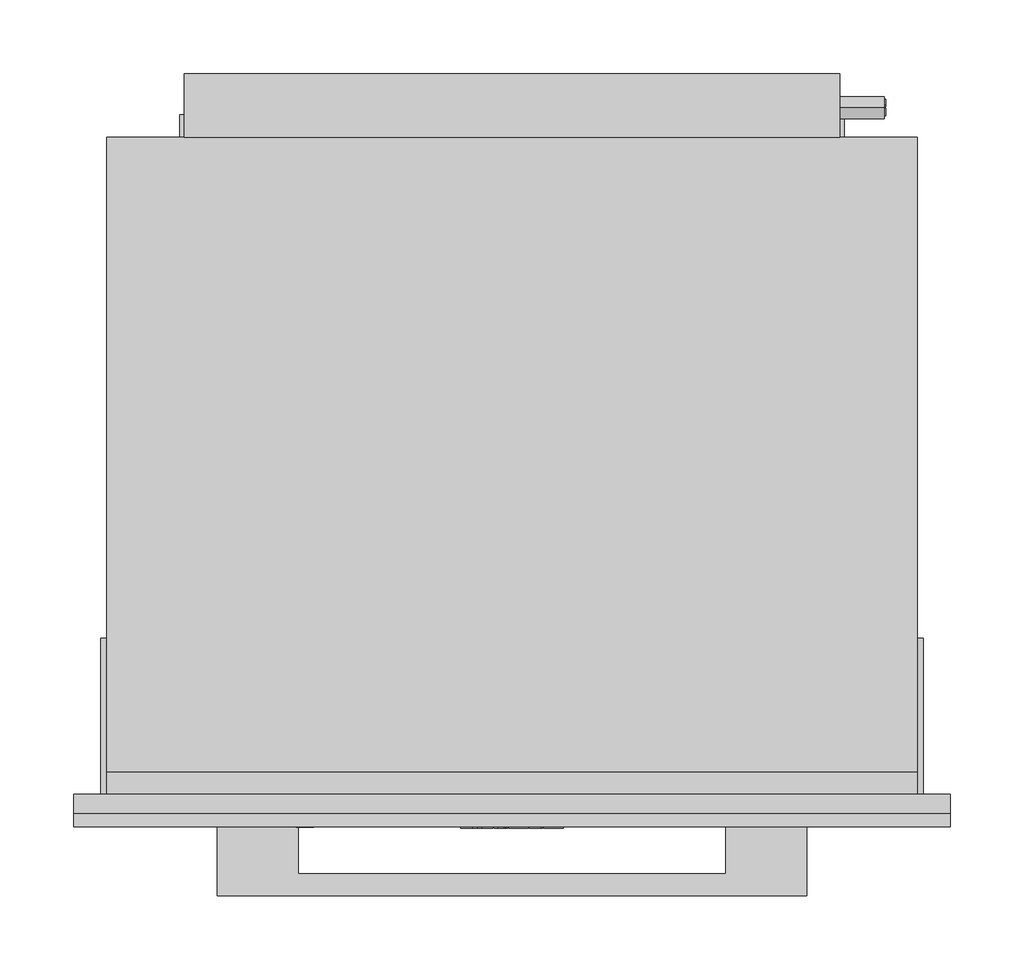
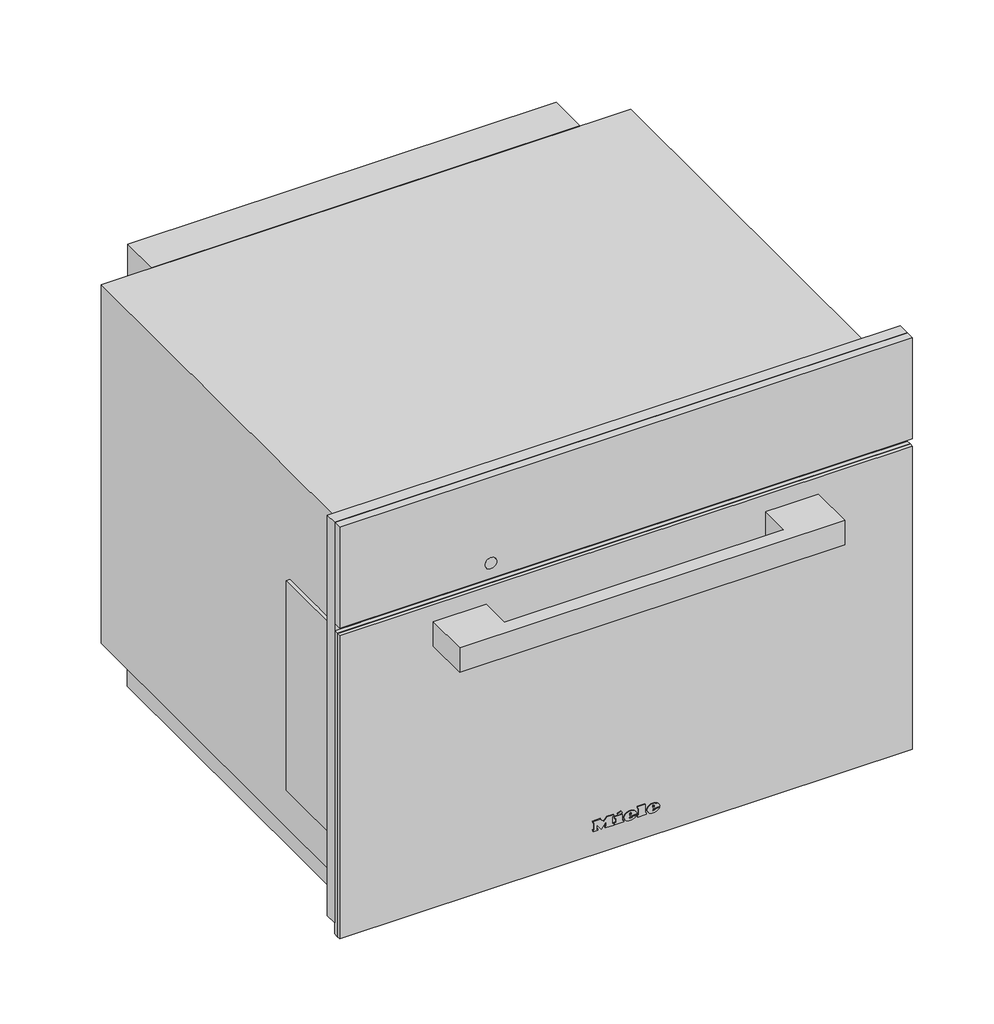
# Not in any storey: 1 proxy.
"""IFC4 building model written with IfcOpenShell, lengths in millimetres."""

import ifcopenshell
import ifcopenshell.guid

model = None  # the IFC model being written
_history = None  # IfcOwnerHistory: only IFC2X3 demands one
_inside = {}  # id of a spatial element -> (the spatial element, [elements in it])
_under = {}  # id of a project, library or spatial element -> (it, [spatial elements below it])
_declared = {}  # id of a project -> (the project, [libraries it declares])
_typed = {}  # id of a type object -> (the type object, [elements of that type])
_made_of = {}  # id of a material, layer set ... -> (it, [elements and type objects made of it])


def new_model(schema):
    """Start an empty IFC model of exactly this schema.

    Asked for "IFC4X3", IfcOpenShell would pick the latest addendum, in which some entities
    have other attributes; the version numbers below select the first issue.
    IFC2X3 requires an IfcOwnerHistory on every rooted entity: one is made here for all.
    """
    global model, _history
    if schema == "IFC4X3":
        model = ifcopenshell.file(schema_version=(4, 3, 0, 0))
    else:
        model = ifcopenshell.file(schema=schema)
    _inside.clear()
    _under.clear()
    _declared.clear()
    _typed.clear()
    _made_of.clear()
    _history = None
    if model.schema == "IFC2X3":
        org = make("IfcOrganization", Name="unknown")
        user = make(
            "IfcPersonAndOrganization",
            ThePerson=make("IfcPerson", FamilyName="unknown"),
            TheOrganization=org,
        )
        app = make(
            "IfcApplication",
            ApplicationDeveloper=org,
            Version="unknown",
            ApplicationFullName="unknown",
            ApplicationIdentifier="unknown",
        )
        _history = make(
            "IfcOwnerHistory",
            OwningUser=user,
            OwningApplication=app,
            ChangeAction="ADDED",
            CreationDate=0,
        )
    return model


def make(cls, **values):
    """One entity of the class cls with the attributes given. An attribute that is None is left unset."""
    return model.create_entity(
        cls, **{name: value for name, value in values.items() if value is not None}
    )


def rooted(cls, **values):
    """An entity with a GlobalId (a new one), such as an element, a storey or a relation."""
    return make(cls, GlobalId=ifcopenshell.guid.new(), OwnerHistory=_history, **values)


def si_unit(unit_type, name, prefix=None):
    """IfcSIUnit, for example si_unit("LENGTHUNIT", "METRE", prefix="MILLI")."""
    return make("IfcSIUnit", UnitType=unit_type, Prefix=prefix, Name=name)


def assignment(units):
    """IfcUnitAssignment: the units of a project."""
    return None if units is None else make("IfcUnitAssignment", Units=units)


def point(xyz):
    """IfcCartesianPoint."""
    return None if xyz is None else make("IfcCartesianPoint", Coordinates=xyz)


def direction(xyz):
    """IfcDirection."""
    return None if xyz is None else make("IfcDirection", DirectionRatios=xyz)


def frame(location, z_axis=None, x_axis=None):
    """IfcAxis2Placement3D, a coordinate frame: its origin and axes. An axis left out is left unset."""
    return make(
        "IfcAxis2Placement3D",
        Location=point(location),
        Axis=direction(z_axis),
        RefDirection=direction(x_axis),
    )


def frame_2d(location, x_axis=None):
    """IfcAxis2Placement2D, a coordinate frame in the plane: its origin and x axis."""
    return make(
        "IfcAxis2Placement2D", Location=point(location), RefDirection=direction(x_axis)
    )


def origin():
    """The frame at (0, 0, 0) with its axes left unset."""
    return frame((0.0, 0.0, 0.0))


def origin_with_axes():
    """The frame at (0, 0, 0) with the z axis (0, 0, 1) and the x axis (1, 0, 0) written out."""
    return frame((0.0, 0.0, 0.0), z_axis=(0.0, 0.0, 1.0), x_axis=(1.0, 0.0, 0.0))


def place(relative_to, where):
    """IfcLocalPlacement: puts the frame where relative to a parent placement (None: the world)."""
    return make(
        "IfcLocalPlacement", PlacementRelTo=relative_to, RelativePlacement=where
    )


def context(
    kind, dimensions, precision=None, world=None, true_north=None, identifier=None
):
    """IfcGeometricRepresentationContext, for example the 3D "Model" context."""
    return make(
        "IfcGeometricRepresentationContext",
        ContextIdentifier=identifier,
        ContextType=kind,
        CoordinateSpaceDimension=dimensions,
        Precision=precision,
        WorldCoordinateSystem=world,
        TrueNorth=true_north,
    )


def project(units=None, contexts=None):
    """IfcProject with its units and contexts."""
    return rooted(
        "IfcProject",
        Name="project",
        RepresentationContexts=contexts,
        UnitsInContext=assignment(units),
    )


def spatial(cls, under=None, at=None, **own):
    """A site, building, storey or space (cls), placed at a placement, below another one or the project."""
    s = rooted(cls, ObjectPlacement=at, **own)
    if under is not None:
        _under.setdefault(under.id(), (under, []))[1].append(s)
    return s


def polyline(points):
    """IfcPolyline through the points."""
    return make("IfcPolyline", Points=[point(p) for p in points])


def circle_curve(where, radius):
    """IfcCircle in the frame where."""
    return make("IfcCircle", Position=where, Radius=radius)


def ellipse_curve(where, semi_axis1, semi_axis2):
    """IfcEllipse in the frame where."""
    return make(
        "IfcEllipse", Position=where, SemiAxis1=semi_axis1, SemiAxis2=semi_axis2
    )


def trimmed(basis, trim1, trim2, sense, master):
    """IfcTrimmedCurve: the piece of a basis curve between two trims."""
    return make(
        "IfcTrimmedCurve",
        BasisCurve=basis,
        Trim1=trim1,
        Trim2=trim2,
        SenseAgreement=sense,
        MasterRepresentation=master,
    )


def segment(curve, same_sense, transition):
    """IfcCompositeCurveSegment."""
    return make(
        "IfcCompositeCurveSegment",
        Transition=transition,
        SameSense=same_sense,
        ParentCurve=curve,
    )


def composite_curve(segments, self_intersect=None):
    """IfcCompositeCurve: segments joined end to end."""
    return make("IfcCompositeCurve", Segments=segments, SelfIntersect=self_intersect)


def outline(outer, holes=None, kind="AREA"):
    """IfcArbitraryClosedProfileDef: a profile drawn as a closed curve; with holes, ...WithVoids."""
    if holes is None:
        return make("IfcArbitraryClosedProfileDef", ProfileType=kind, OuterCurve=outer)
    return make(
        "IfcArbitraryProfileDefWithVoids",
        ProfileType=kind,
        OuterCurve=outer,
        InnerCurves=holes,
    )


def extrude(swept, where, along, depth):
    """IfcExtrudedAreaSolid: the profile swept, set in the frame where, extruded along a direction by depth."""
    return make(
        "IfcExtrudedAreaSolid",
        SweptArea=swept,
        Position=where,
        ExtrudedDirection=direction(along),
        Depth=depth,
    )


def faces_of(points, faces, orient=None, outer=None):
    """IfcFace entities. A face is a list of loops; a loop is a list of indices into points, from 0.

    orient and outer hold one flag for each loop. By default every Orientation is true, the
    first loop of a face is its IfcFaceOuterBound and the others are IfcFaceBound.
    """
    made = []
    for i, loops in enumerate(faces):
        bounds = []
        for j, loop in enumerate(loops):
            is_outer = j == 0 if outer is None else outer[i][j]
            bounds.append(
                make(
                    "IfcFaceOuterBound" if is_outer else "IfcFaceBound",
                    Bound=make("IfcPolyLoop", Polygon=[points[k] for k in loop]),
                    Orientation=True if orient is None else orient[i][j],
                )
            )
        made.append(make("IfcFace", Bounds=bounds))
    return made


def faceted_brep(points, faces, orient=None, outer=None, voids=None):
    """IfcFacetedBrep: a solid bounded by flat faces; with voids (closed shells), ...WithVoids."""
    shared = [point(p) for p in points]
    hull = make("IfcClosedShell", CfsFaces=faces_of(shared, faces, orient, outer))
    if voids is None:
        return make("IfcFacetedBrep", Outer=hull)
    return make(
        "IfcFacetedBrepWithVoids",
        Outer=hull,
        Voids=[
            make(cls, CfsFaces=faces_of(shared, fs, o, b)) for cls, fs, o, b in voids
        ],
    )


def shape(context_of_items, identifier, shape_type, items):
    """IfcShapeRepresentation: the items that make up one representation, for example the "Body"."""
    return make(
        "IfcShapeRepresentation",
        ContextOfItems=context_of_items,
        RepresentationIdentifier=identifier,
        RepresentationType=shape_type,
        Items=items,
    )


def source(mapping_origin, context_of_items, identifier, shape_type, items):
    """IfcRepresentationMap: a shape defined once, which mapped items show again and again."""
    return make(
        "IfcRepresentationMap",
        MappingOrigin=mapping_origin,
        MappedRepresentation=shape(context_of_items, identifier, shape_type, items),
    )


def transform(
    local_origin,
    x_axis=None,
    y_axis=None,
    z_axis=None,
    scale=None,
    scale2=None,
    scale3=None,
    uniform=True,
):
    """IfcCartesianTransformationOperator3D, or its non-uniform kind. x_axis, y_axis, z_axis: its Axis1, 2, 3."""
    if uniform:
        return make(
            "IfcCartesianTransformationOperator3D",
            Axis1=direction(x_axis),
            Axis2=direction(y_axis),
            LocalOrigin=point(local_origin),
            Scale=scale,
            Axis3=direction(z_axis),
        )
    return make(
        "IfcCartesianTransformationOperator3DnonUniform",
        Axis1=direction(x_axis),
        Axis2=direction(y_axis),
        LocalOrigin=point(local_origin),
        Scale=scale,
        Axis3=direction(z_axis),
        Scale2=scale2,
        Scale3=scale3,
    )


def mapped(mapping_source, mapping_target):
    """IfcMappedItem: shows the shape of a source again, moved by a transform."""
    return make(
        "IfcMappedItem", MappingSource=mapping_source, MappingTarget=mapping_target
    )


def made_of(thing, what):
    """Note that an element or type object is made of a material, layer set ...; save() writes the relation."""
    if what is not None:
        _made_of.setdefault(what.id(), (what, []))[1].append(thing)
    return thing


def element(
    cls,
    number,
    at=None,
    inside=None,
    cuts=None,
    type_object=None,
    material=None,
    context=None,
    identifier="Body",
    shape_type=None,
    held_by="IfcProductDefinitionShape",
    body=None,
    shapes=None,
    **own,
):
    """One element of the class cls, such as IfcWall. Its Tag is "e" and its number.

    at: its placement. inside: the storey or other place that contains it. cuts: it is an
    opening in that element (IfcRelVoidsElement). A single representation is given by context,
    identifier, shape_type and body (its items); several are given by shapes. held_by: the class
    of the entity that holds the representations. save() writes the other relations.
    """
    e = rooted(cls, Tag="e%d" % number, ObjectPlacement=at, **own)
    if body is not None:
        shapes = [shape(context, identifier, shape_type, body)]
    if shapes is not None:
        e.Representation = make(held_by, Representations=shapes)
    if inside is not None:
        _inside.setdefault(inside.id(), (inside, []))[1].append(e)
    if cuts is not None:
        rooted(
            "IfcRelVoidsElement", RelatingBuildingElement=cuts, RelatedOpeningElement=e
        )
    if type_object is not None:
        _typed.setdefault(type_object.id(), (type_object, []))[1].append(e)
    return made_of(e, material)


def aggregate(whole, parts):
    """IfcRelAggregates: a whole, such as a stair, and the parts it consists of."""
    return rooted("IfcRelAggregates", RelatingObject=whole, RelatedObjects=parts)


def save(model, path):
    """Write the relations noted so far, then the file.

    IfcRelAggregates (storeys below a building ...), IfcRelContainedInSpatialStructure (elements
    in a storey), IfcRelDefinesByType, IfcRelAssociatesMaterial and IfcRelDeclares: one each for
    every whole, place, type object, material and project.
    """
    for whole, parts in _under.values():
        aggregate(whole, parts)
    for where, things in _inside.values():
        rooted(
            "IfcRelContainedInSpatialStructure",
            RelatedElements=things,
            RelatingStructure=where,
        )
    for kind, things in _typed.values():
        rooted("IfcRelDefinesByType", RelatedObjects=things, RelatingType=kind)
    for what, things in _made_of.values():
        rooted("IfcRelAssociatesMaterial", RelatedObjects=things, RelatingMaterial=what)
    for by, libraries in _declared.values():
        rooted("IfcRelDeclares", RelatingContext=by, RelatedDefinitions=libraries)
    model.write(path)


def plane_surface(at):
    """IfcPlane: the flat surface through the origin of the frame at, square to its z axis."""
    return make("IfcPlane", Position=at)


def cylinder_surface(at, radius):
    """IfcCylindricalSurface: all points at the distance radius from the z axis of the frame at."""
    return make("IfcCylindricalSurface", Position=at, Radius=radius)


def revolved_surface(curve, axis_point, axis_direction):
    """IfcSurfaceOfRevolution: the curve turned about the line through axis_point along axis_direction."""
    return make(
        "IfcSurfaceOfRevolution",
        SweptCurve=make("IfcArbitraryOpenProfileDef", ProfileType="CURVE", Curve=curve),
        AxisPosition=make("IfcAxis1Placement", Location=point(axis_point), Axis=direction(axis_direction)),
    )


def extruded_surface(curve, direction_of_extrusion, depth):
    """IfcSurfaceOfLinearExtrusion: the curve pushed along a direction by depth."""
    return make(
        "IfcSurfaceOfLinearExtrusion",
        SweptCurve=make("IfcArbitraryOpenProfileDef", ProfileType="CURVE", Curve=curve),
        ExtrudedDirection=direction(direction_of_extrusion),
        Depth=depth,
    )


def advanced_brep(points, edges, surfaces, faces):
    """IfcAdvancedBrep: a solid bounded by faces that lie on surfaces and meet in shared edges.

    An edge is (start, end): straight between two places in points (the first is 0);
    or (start, end, curve); or (start, end, curve, False) where it runs against its curve.
    A face is (place in surfaces, loops), or (place, loops, False) where it looks against
    its surface's normal. A loop lists edges by number (the first is 1), with a minus sign
    where the edge is run from its end to its start. The first loop is the outer one.
    """
    corners = [point(p) for p in points]
    vertices = [make("IfcVertexPoint", VertexGeometry=c) for c in corners]
    made = []
    for start, end, *more in edges:
        made.append(
            make(
                "IfcEdgeCurve",
                EdgeStart=vertices[start],
                EdgeEnd=vertices[end],
                EdgeGeometry=more[0] if more else make("IfcPolyline", Points=[corners[start], corners[end]]),
                SameSense=more[1] if len(more) > 1 else True,
            )
        )
    hull = []
    for where, loops, *sense in faces:
        bounds = []
        for j, loop in enumerate(loops):
            ring = [make("IfcOrientedEdge", EdgeElement=made[abs(k) - 1], Orientation=k > 0) for k in loop]
            bounds.append(
                make(
                    "IfcFaceOuterBound" if j == 0 else "IfcFaceBound",
                    Bound=make("IfcEdgeLoop", EdgeList=ring),
                    Orientation=True,
                )
            )
        hull.append(make("IfcAdvancedFace", Bounds=bounds, FaceSurface=surfaces[where], SameSense=sense[0] if sense else True))
    return make("IfcAdvancedBrep", Outer=make("IfcClosedShell", CfsFaces=hull))


def specialty_equipment_be753a0b(model_context):
    return source(origin(), model_context, "Body", "SolidModel", [
        extrude(outline(polyline([(456.0, 297.5), (456.0, -297.5), (16.0, -297.5), (16.0, 297.5), (456.0, 297.5)]), holes=[polyline([(347.0, -270.0), (347.0, 270.0), (40.0, 270.0), (40.0, -270.0), (347.0, -270.0)])]), frame((0.0, -13.0, 0.0), z_axis=(0.0, 1.0, 0.0), x_axis=(0.0, 0.0, 1.0)), (0.0, 0.0, 1.0), 13.0),
        extrude(outline(composite_curve([segment(trimmed(circle_curve(frame_2d((251.5, 37.5)), 10.5), [point((251.5, 27.0))], [point((251.5, 48.0))], False, "CARTESIAN"), True, "CONTINUOUS"), segment(trimmed(circle_curve(frame_2d((251.5, 37.5)), 10.5), [point((251.5, 48.0))], [point((251.5, 27.0))], False, "CARTESIAN"), True, "CONTINUOUS")], self_intersect=False)), origin_with_axes(), (0.0, 0.0, 1.0), 3.0),
        extrude(outline(composite_curve([segment(trimmed(circle_curve(frame_2d((251.5, 397.5)), 10.5), [point((251.5, 387.0))], [point((251.5, 408.0))], False, "CARTESIAN"), True, "CONTINUOUS"), segment(trimmed(circle_curve(frame_2d((251.5, 397.5)), 10.5), [point((251.5, 408.0))], [point((251.5, 387.0))], False, "CARTESIAN"), True, "CONTINUOUS")], self_intersect=False)), origin_with_axes(), (0.0, 0.0, 1.0), 3.0),
        extrude(outline(composite_curve([segment(trimmed(circle_curve(frame_2d((-251.5, 397.5)), 10.5), [point((-251.5, 387.0))], [point((-251.5, 408.0))], False, "CARTESIAN"), True, "CONTINUOUS"), segment(trimmed(circle_curve(frame_2d((-251.5, 397.5)), 10.5), [point((-251.5, 408.0))], [point((-251.5, 387.0))], False, "CARTESIAN"), True, "CONTINUOUS")], self_intersect=False)), origin_with_axes(), (0.0, 0.0, 1.0), 3.0),
        extrude(outline(composite_curve([segment(trimmed(circle_curve(frame_2d((-251.5, 37.5)), 10.5), [point((-251.5, 27.0))], [point((-251.5, 48.0))], False, "CARTESIAN"), True, "CONTINUOUS"), segment(trimmed(circle_curve(frame_2d((-251.5, 37.5)), 10.5), [point((-251.5, 48.0))], [point((-251.5, 27.0))], False, "CARTESIAN"), True, "CONTINUOUS")], self_intersect=False)), origin_with_axes(), (0.0, 0.0, 1.0), 3.0),
        extrude(outline(polyline([(115.0, 330.0), (115.0, 130.0), (-115.0, 130.0), (-115.0, 330.0), (115.0, 330.0)])), frame((0.0, 0.0, 11.0), z_axis=(0.0, 0.0, 1.0), x_axis=(1.0, 0.0, 0.0)), (0.0, 0.0, 1.0), 26.0),
        extrude(outline(composite_curve([segment(trimmed(circle_curve(frame_2d((466.0, 369.0)), 7.5), [point((466.0, 361.5))], [point((466.0, 376.5))], False, "CARTESIAN"), True, "CONTINUOUS"), segment(trimmed(circle_curve(frame_2d((466.0, 369.0)), 7.5), [point((466.0, 376.5))], [point((466.0, 361.5))], False, "CARTESIAN"), True, "CONTINUOUS")], self_intersect=False)), frame((222.5, 0.0, 0.0), z_axis=(1.0, 0.0, 0.0), x_axis=(0.0, 1.0, 0.0)), (0.0, 0.0, 1.0), 30.0),
        extrude(outline(polyline([(-222.5, 489.0), (222.5, 489.0), (222.5, 446.0), (-222.5, 446.0), (-222.5, 489.0)])), frame((0.0, 0.0, 316.0), z_axis=(0.0, 0.0, 1.0), x_axis=(1.0, 0.0, 0.0)), (0.0, 0.0, 1.0), 115.0),
        extrude(outline(polyline([(275.0, 0.0), (275.0, 106.0), (279.0, 106.0), (279.0, 0.0), (275.0, 0.0)])), frame((0.0, 0.0, 83.2054686), z_axis=(0.0, 0.0, 1.0), x_axis=(1.0, 0.0, 0.0)), (0.0, 0.0, 1.0), 230.0),
        extrude(outline(polyline([(-279.0, 0.0), (-279.0, 106.0), (-275.0, 106.0), (-275.0, 0.0), (-279.0, 0.0)])), frame((0.0, 0.0, 83.2054686), z_axis=(0.0, 0.0, 1.0), x_axis=(1.0, 0.0, 0.0)), (0.0, 0.0, 1.0), 230.0),
        extrude(outline(polyline([(460.5132233, 374.0), (465.5132233, 374.0), (465.5132233, 373.0), (461.5132233, 373.0), (461.5132233, 369.5), (464.5132233, 369.5), (464.5132233, 368.5), (461.5132233, 368.5), (461.5132233, 365.0), (465.5132233, 365.0), (465.5132233, 364.0), (460.5132233, 364.0), (460.5132233, 374.0)])), frame((252.5, 0.0, 0.0), z_axis=(1.0, 0.0, 0.0), x_axis=(0.0, 1.0, 0.0)), (0.0, 0.0, 1.0), 1.0),
        extrude(outline(polyline([(466.5132233, 364.0), (466.5132233, 374.0), (467.5176929, 374.0), (467.5176929, 365.0), (471.5132233, 365.0), (471.5132233, 364.0), (466.5132233, 364.0)])), frame((252.5, 0.0, 0.0), z_axis=(1.0, 0.0, 0.0), x_axis=(0.0, 1.0, 0.0)), (0.0, 0.0, 1.0), 1.0),
        extrude(outline(polyline([(289.0, -225.5), (58.0, -225.5), (58.0, 0.0), (58.0, 225.5), (289.0, 225.5), (289.0, 0.0), (289.0, -225.5)])), frame((0.0, 446.0, 0.0), z_axis=(0.0, 1.0, 0.0), x_axis=(0.0, 0.0, 1.0)), (0.0, 0.0, 1.0), 15.0),
        faceted_brep([(-275.0, 446.0, 431.0), (275.0, 446.0, 431.0), (275.0, 446.0, 37.0), (-275.0, 446.0, 37.0), (-275.0, 0.0, 37.0), (-264.0, 0.0, 37.0), (-264.0, 0.0, 3.0), (-239.0, 0.0, 3.0), (-239.0, 0.0, 37.0), (239.0, 0.0, 37.0), (239.0, 0.0, 3.0), (264.0, 0.0, 3.0), (264.0, 0.0, 37.0), (275.0, 0.0, 37.0), (275.0, 0.0, 438.0), (-275.0, 0.0, 438.0), (-270.0, 0.0, 347.0), (270.0, 0.0, 347.0), (270.0, 0.0, 40.0), (-270.0, 0.0, 40.0), (-275.0, 15.0, 431.0), (275.0, 15.0, 431.0), (-275.0, 15.0, 438.0), (275.0, 15.0, 438.0), (270.0, 16.0, 347.0), (-270.0, 16.0, 347.0), (-270.0, 16.0, 40.0), (270.0, 16.0, 40.0), (225.0, 16.0, 303.0), (225.0, 16.0, 71.0), (-225.0, 16.0, 71.0), (-225.0, 16.0, 303.0), (225.0, 444.0, 303.0), (-225.0, 444.0, 303.0), (-225.0, 444.0, 71.0), (225.0, 444.0, 71.0), (-239.0, 418.0, 37.0), (-264.0, 418.0, 37.0), (264.0, 418.0, 37.0), (239.0, 418.0, 37.0), (-239.0, 418.0, 3.0), (239.0, 418.0, 3.0), (264.0, 418.0, 3.0), (-264.0, 418.0, 3.0)], [[[0, 1, 2, 3]], [[4, 5, 6, 7, 8, 9, 10, 11, 12, 13, 14, 15], [16, 17, 18, 19]], [[1, 0, 20, 21]], [[0, 3, 4, 15, 22, 20]], [[2, 1, 21, 23, 14, 13]], [[24, 25, 26, 27], [28, 29, 30, 31]], [[25, 24, 17, 16]], [[26, 25, 16, 19]], [[27, 26, 19, 18]], [[24, 27, 18, 17]], [[32, 33, 34, 35]], [[32, 35, 29, 28]], [[35, 34, 30, 29]], [[34, 33, 31, 30]], [[33, 32, 28, 31]], [[14, 23, 22, 15]], [[23, 21, 20, 22]], [[36, 37, 5, 4, 3, 2, 13, 12, 38, 39, 9, 8]], [[36, 8, 7, 40]], [[9, 39, 41, 10]], [[39, 38, 42, 41]], [[38, 12, 11, 42]], [[5, 37, 43, 6]], [[37, 36, 40, 43]], [[7, 6, 43, 40]], [[11, 10, 41, 42]]]),
        advanced_brep(
        [(27.088, -23.0, 32.7018), (27.088, -23.0, 33.8532), (34.7146, -23.0, 33.8532), (21.445, -23.0, 33.8532), (24.58, -23.0, 30.0), (34.5208, -23.0, 32.7018), (31.078, -23.0, 32.7018), (28.3648, -23.0, 31.425), (27.088, -23.0, 35.3124), (27.088, -23.0, 36.555), (29.0374, -23.0, 36.555), (29.0374, -23.0, 35.3124), (27.088, -22.0, 32.7018), (28.3648, -22.0, 31.425), (31.078, -22.0, 32.7018), (34.5208, -22.0, 32.7018), (24.58, -22.0, 30.0), (21.445, -22.0, 33.8532), (34.7146, -22.0, 33.8532), (27.088, -22.0, 33.8532), (27.088, -22.0, 35.3124), (29.0374, -22.0, 35.3124), (29.0374, -22.0, 36.555), (27.088, -22.0, 36.555)],
        [
            (0, 1),
            (1, 2),
            (2, 3, ellipse_curve(frame((28.0798, -23.0, 33.8532), z_axis=(0.0, -1.0, 0.0), x_axis=(-1.0, 0.0, 0.0)), 6.6348, 5.4834)),
            (3, 4, circle_curve(frame((25.8568622, -23.0, 34.2408), z_axis=(0.0, -1.0, 0.0), x_axis=(0.0, 0.0, -1.0)), 4.4288556)),
            (4, 5, circle_curve(frame((27.9469808, -23.0, 37.2504), z_axis=(0.0, -1.0, 0.0), x_axis=(0.0, 0.0, -1.0)), 7.9940516)),
            (5, 6),
            (6, 7, circle_curve(frame((28.9220588, -23.0, 33.762), z_axis=(0.0, 1.0, 0.0), x_axis=(0.0, 0.0, -1.0)), 2.4025208)),
            (7, 0, circle_curve(frame((28.3648, -23.0, 32.7018), z_axis=(0.0, 1.0, 0.0), x_axis=(0.0, 0.0, -1.0)), 1.2768)),
            (8, 9),
            (9, 10, circle_curve(frame((28.0627, -23.0, 36.555), z_axis=(0.0, 1.0, 0.0), x_axis=(0.0, 0.0, -1.0)), 0.9747)),
            (10, 11),
            (11, 8),
            (12, 13, circle_curve(frame((28.3648, -22.0, 32.7018), z_axis=(0.0, -1.0, 0.0), x_axis=(0.0, 0.0, -1.0)), 1.2768)),
            (13, 14, circle_curve(frame((28.9220588, -22.0, 33.762), z_axis=(0.0, -1.0, 0.0), x_axis=(0.0, 0.0, -1.0)), 2.4025208)),
            (14, 15),
            (15, 16, circle_curve(frame((27.9469808, -22.0, 37.2504), z_axis=(0.0, 1.0, 0.0), x_axis=(0.0, 0.0, -1.0)), 7.9940516)),
            (16, 17, circle_curve(frame((25.8568622, -22.0, 34.2408), z_axis=(0.0, 1.0, 0.0), x_axis=(0.0, 0.0, -1.0)), 4.4288556)),
            (17, 18, ellipse_curve(frame((28.0798, -22.0, 33.8532), z_axis=(0.0, 1.0, 0.0), x_axis=(-1.0, 0.0, 0.0)), 6.6348, 5.4834)),
            (18, 19),
            (19, 12),
            (20, 21),
            (21, 22),
            (22, 23, circle_curve(frame((28.0627, -22.0, 36.555), z_axis=(0.0, -1.0, 0.0), x_axis=(0.0, 0.0, -1.0)), 0.9747)),
            (23, 20),
            (0, 12),
            (19, 1),
            (18, 2),
            (5, 15),
            (14, 6),
            (17, 3),
            (13, 7),
            (16, 4),
            (8, 20),
            (23, 9),
            (22, 10),
            (21, 11),
        ],
        [
            plane_surface(frame((27.088, -23.0, 33.8532), z_axis=(0.0, -1.0, 0.0), x_axis=(0.0, 0.0, 1.0))),
            plane_surface(frame((27.088, -22.0, 33.8532), z_axis=(0.0, 1.0, 0.0), x_axis=(0.0, 0.0, -1.0))),
            plane_surface(frame((27.088, -23.0, 32.7018), z_axis=(1.0, 0.0, 0.0), x_axis=(0.0, 1.0, 0.0))),
            plane_surface(frame((27.088, -23.0, 33.8532), z_axis=(0.0, 0.0, -1.0), x_axis=(0.0, 1.0, 0.0))),
            plane_surface(frame((34.5208, -23.0, 32.7018), z_axis=(0.0, 0.0, 1.0), x_axis=(0.0, 1.0, 0.0))),
            extruded_surface(trimmed(ellipse_curve(frame((28.0798, -21.0, 33.8532), z_axis=(0.0, -1.0, 0.0), x_axis=(-1.0, 0.0, 0.0)), 6.6348, 5.4834), [point((34.7146, -21.0, 33.8532))], [point((21.445, -21.0, 33.8532))], True, "CARTESIAN"), (0.0, -1.0, 0.0), 1.0),
            revolved_surface(polyline([(28.9220588, -22.0, 31.3594792), (28.9220588, -23.0, 31.3594792)]), (28.9220588, -22.0, 33.762), (0.0, 1.0, 0.0)),
            revolved_surface(polyline([(28.3648, -22.0, 31.424999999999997), (28.3648, -23.0, 31.424999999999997)]), (28.3648, -22.0, 32.7018), (0.0, 1.0, 0.0)),
            cylinder_surface(frame((25.8568622, -22.0, 34.2408), z_axis=(0.0, -1.0, 0.0), x_axis=(0.0, 0.0, -1.0)), 4.4288556),
            cylinder_surface(frame((27.9469808, -22.0, 37.2504), z_axis=(0.0, -1.0, 0.0), x_axis=(0.0, 0.0, -1.0)), 7.9940516),
            plane_surface(frame((27.088, -23.0, 35.3124), z_axis=(1.0, 0.0, 0.0), x_axis=(0.0, 1.0, 0.0))),
            revolved_surface(polyline([(28.0627, -22.0, 35.5803), (28.0627, -23.0, 35.5803)]), (28.0627, -22.0, 36.555), (0.0, 1.0, 0.0)),
            plane_surface(frame((29.0374, -23.0, 36.555), z_axis=(-1.0, 0.0, 0.0), x_axis=(0.0, 1.0, 0.0))),
            plane_surface(frame((29.0374, -23.0, 35.3124), z_axis=(0.0, 0.0, 1.0), x_axis=(0.0, 1.0, 0.0))),
        ],
        [
            (0, [[1, 2, 3, 4, 5, 6, 7, 8], [9, 10, 11, 12]]),
            (1, [[13, 14, 15, 16, 17, 18, 19, 20], [21, 22, 23, 24]]),
            (2, [[-1, 25, -20, 26]]),
            (3, [[-2, -26, -19, 27]]),
            (4, [[-6, 28, -15, 29]]),
            (5, [[-3, -27, -18, 30]]),
            (6, [[-7, -29, -14, 31]]),
            (7, [[-8, -31, -13, -25]]),
            (8, [[-4, -30, -17, 32]]),
            (9, [[-5, -32, -16, -28]]),
            (10, [[-9, 33, -24, 34]]),
            (11, [[-10, -34, -23, 35]]),
            (12, [[-11, -35, -22, 36]]),
            (13, [[-12, -36, -21, -33]]),
        ],
    ),
        advanced_brep(
        [(3.2962, -23.0, 32.7018), (3.2962, -23.0, 33.8532), (10.9228, -23.0, 33.8532), (-2.3468, -23.0, 33.8532), (0.7882, -23.0, 30.0), (10.729, -23.0, 32.7018), (7.2862, -23.0, 32.7018), (4.573, -23.0, 31.425), (3.2962, -23.0, 35.3124), (3.2962, -23.0, 36.555), (5.2456, -23.0, 36.555), (5.2456, -23.0, 35.3124), (3.2962, -22.0, 32.7018), (4.573, -22.0, 31.425), (7.2862, -22.0, 32.7018), (10.729, -22.0, 32.7018), (0.7882, -22.0, 30.0), (-2.3468, -22.0, 33.8532), (10.9228, -22.0, 33.8532), (3.2962, -22.0, 33.8532), (3.2962, -22.0, 35.3124), (5.2456, -22.0, 35.3124), (5.2456, -22.0, 36.555), (3.2962, -22.0, 36.555)],
        [
            (0, 1),
            (1, 2),
            (2, 3, ellipse_curve(frame((4.288, -23.0, 33.8532), z_axis=(0.0, -1.0, 0.0), x_axis=(-1.0, 0.0, 0.0)), 6.6348, 5.4834)),
            (3, 4, circle_curve(frame((2.0650622, -23.0, 34.2408), z_axis=(0.0, -1.0, 0.0), x_axis=(0.0, 0.0, -1.0)), 4.4288556)),
            (4, 5, circle_curve(frame((4.1551808, -23.0, 37.2504), z_axis=(0.0, -1.0, 0.0), x_axis=(0.0, 0.0, -1.0)), 7.9940516)),
            (5, 6),
            (6, 7, circle_curve(frame((5.1302588, -23.0, 33.762), z_axis=(0.0, 1.0, 0.0), x_axis=(0.0, 0.0, -1.0)), 2.4025208)),
            (7, 0, circle_curve(frame((4.573, -23.0, 32.7018), z_axis=(0.0, 1.0, 0.0), x_axis=(0.0, 0.0, -1.0)), 1.2768)),
            (8, 9),
            (9, 10, circle_curve(frame((4.2709, -23.0, 36.555), z_axis=(0.0, 1.0, 0.0), x_axis=(0.0, 0.0, -1.0)), 0.9747)),
            (10, 11),
            (11, 8),
            (12, 13, circle_curve(frame((4.573, -22.0, 32.7018), z_axis=(0.0, -1.0, 0.0), x_axis=(0.0, 0.0, -1.0)), 1.2768)),
            (13, 14, circle_curve(frame((5.1302588, -22.0, 33.762), z_axis=(0.0, -1.0, 0.0), x_axis=(0.0, 0.0, -1.0)), 2.4025208)),
            (14, 15),
            (15, 16, circle_curve(frame((4.1551808, -22.0, 37.2504), z_axis=(0.0, 1.0, 0.0), x_axis=(0.0, 0.0, -1.0)), 7.9940516)),
            (16, 17, circle_curve(frame((2.0650622, -22.0, 34.2408), z_axis=(0.0, 1.0, 0.0), x_axis=(0.0, 0.0, -1.0)), 4.4288556)),
            (17, 18, ellipse_curve(frame((4.288, -22.0, 33.8532), z_axis=(0.0, 1.0, 0.0), x_axis=(-1.0, 0.0, 0.0)), 6.6348, 5.4834)),
            (18, 19),
            (19, 12),
            (20, 21),
            (21, 22),
            (22, 23, circle_curve(frame((4.2709, -22.0, 36.555), z_axis=(0.0, -1.0, 0.0), x_axis=(0.0, 0.0, -1.0)), 0.9747)),
            (23, 20),
            (0, 12),
            (19, 1),
            (18, 2),
            (5, 15),
            (14, 6),
            (17, 3),
            (13, 7),
            (16, 4),
            (8, 20),
            (23, 9),
            (22, 10),
            (21, 11),
        ],
        [
            plane_surface(frame((3.2962, -23.0, 33.8532), z_axis=(0.0, -1.0, 0.0), x_axis=(0.0, 0.0, 1.0))),
            plane_surface(frame((3.2962, -22.0, 33.8532), z_axis=(0.0, 1.0, 0.0), x_axis=(0.0, 0.0, -1.0))),
            plane_surface(frame((3.2962, -23.0, 32.7018), z_axis=(1.0, 0.0, 0.0), x_axis=(0.0, 1.0, 0.0))),
            plane_surface(frame((3.2962, -23.0, 33.8532), z_axis=(0.0, 0.0, -1.0), x_axis=(0.0, 1.0, 0.0))),
            plane_surface(frame((10.729, -23.0, 32.7018), z_axis=(0.0, 0.0, 1.0), x_axis=(0.0, 1.0, 0.0))),
            extruded_surface(trimmed(ellipse_curve(frame((4.288, -21.0, 33.8532), z_axis=(0.0, -1.0, 0.0), x_axis=(-1.0, 0.0, 0.0)), 6.6348, 5.4834), [point((10.9228, -21.0, 33.8532))], [point((-2.3468, -21.0, 33.8532))], True, "CARTESIAN"), (0.0, -1.0, 0.0), 1.0),
            revolved_surface(polyline([(5.1302588, -22.0, 31.3594792), (5.1302588, -23.0, 31.3594792)]), (5.1302588, -22.0, 33.762), (0.0, 1.0, 0.0)),
            revolved_surface(polyline([(4.573, -22.0, 31.424999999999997), (4.573, -23.0, 31.424999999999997)]), (4.573, -22.0, 32.7018), (0.0, 1.0, 0.0)),
            cylinder_surface(frame((2.0650622, -22.0, 34.2408), z_axis=(0.0, -1.0, 0.0), x_axis=(0.0, 0.0, -1.0)), 4.4288556),
            cylinder_surface(frame((4.1551808, -22.0, 37.2504), z_axis=(0.0, -1.0, 0.0), x_axis=(0.0, 0.0, -1.0)), 7.9940516),
            plane_surface(frame((3.2962, -23.0, 35.3124), z_axis=(1.0, 0.0, 0.0), x_axis=(0.0, 1.0, 0.0))),
            revolved_surface(polyline([(4.2709, -22.0, 35.5803), (4.2709, -23.0, 35.5803)]), (4.2709, -22.0, 36.555), (0.0, 1.0, 0.0)),
            plane_surface(frame((5.2456, -23.0, 36.555), z_axis=(-1.0, 0.0, 0.0), x_axis=(0.0, 1.0, 0.0))),
            plane_surface(frame((5.2456, -23.0, 35.3124), z_axis=(0.0, 0.0, 1.0), x_axis=(0.0, 1.0, 0.0))),
        ],
        [
            (0, [[1, 2, 3, 4, 5, 6, 7, 8], [9, 10, 11, 12]]),
            (1, [[13, 14, 15, 16, 17, 18, 19, 20], [21, 22, 23, 24]]),
            (2, [[-1, 25, -20, 26]]),
            (3, [[-2, -26, -19, 27]]),
            (4, [[-6, 28, -15, 29]]),
            (5, [[-3, -27, -18, 30]]),
            (6, [[-7, -29, -14, 31]]),
            (7, [[-8, -31, -13, -25]]),
            (8, [[-4, -30, -17, 32]]),
            (9, [[-5, -32, -16, -28]]),
            (10, [[-9, 33, -24, 34]]),
            (11, [[-10, -34, -23, 35]]),
            (12, [[-11, -35, -22, 36]]),
            (13, [[-12, -36, -21, -33]]),
        ],
    ),
        extrude(outline(polyline([(40.7274, -9.164), (38.8806, -8.2976), (40.6818, -4.433), (42.5286, -5.288), (40.7274, -9.164)])), frame((0.0, -23.0, 0.0), z_axis=(0.0, 1.0, 0.0), x_axis=(0.0, 0.0, 1.0)), (0.0, 0.0, 1.0), 1.0),
        extrude(outline(polyline([(38.6298, -11.9798), (36.5892, -11.9798), (36.5892, -10.6232), (31.9152, -10.6232), (31.9152, -11.9798), (30.0, -11.9798), (30.0, -2.9852), (31.9152, -2.9852), (31.9152, -4.3076), (38.6298, -4.3076), (38.6298, -11.9798)])), frame((0.0, -23.0, 0.0), z_axis=(0.0, 1.0, 0.0), x_axis=(0.0, 0.0, 1.0)), (0.0, 0.0, 1.0), 1.0),
        extrude(outline(polyline([(39.5418, 11.5612), (39.5418, 12.9292), (31.9152, 12.9292), (31.9152, 11.5612), (30.0, 11.5612), (30.0, 20.8066), (31.9152, 20.8066), (31.9152, 19.4044), (41.4, 19.4044), (41.4, 11.5612), (39.5418, 11.5612)])), frame((0.0, -23.0, 0.0), z_axis=(0.0, 1.0, 0.0), x_axis=(0.0, 0.0, 1.0)), (0.0, 0.0, 1.0), 1.0),
        extrude(outline(polyline([(39.5418, -34.7), (39.5418, -33.3206), (31.9152, -33.3206), (31.9152, -34.7), (30.0, -34.7), (30.0, -29.684), (31.9152, -29.684), (31.9152, -31.052), (36.7429247, -31.052), (30.0, -25.9562), (36.9402223, -20.8376), (31.9152, -20.8376), (31.9152, -22.2398), (30.0, -22.2398), (30.0, -13.1426), (31.9152, -13.1426), (31.9152, -14.5904), (39.5418, -14.5904), (39.5418, -13.1426), (41.4, -13.1426), (41.4, -20.0852), (37.125, -23.414), (41.4, -26.7542), (41.4, -34.7), (39.5418, -34.7)])), frame((0.0, -23.0, 0.0), z_axis=(0.0, 1.0, 0.0), x_axis=(0.0, 0.0, 1.0)), (0.0, 0.0, 1.0), 1.0),
        extrude(outline(polyline([(297.5, -22.0), (-297.5, -22.0), (-297.5, -13.0), (297.5, -13.0), (297.5, -22.0)])), frame((0.0, 0.0, 345.0), z_axis=(0.0, 0.0, 1.0), x_axis=(1.0, 0.0, 0.0)), (0.0, 0.0, 1.0), 111.0),
        extrude(outline(composite_curve([segment(trimmed(circle_curve(frame_2d((362.0, -140.5745637)), 6.0), [point((362.0, -146.5745637))], [point((362.0, -134.5745637))], False, "CARTESIAN"), True, "CONTINUOUS"), segment(trimmed(circle_curve(frame_2d((362.0, -140.5745637)), 6.0), [point((362.0, -134.5745637))], [point((362.0, -146.5745637))], False, "CARTESIAN"), True, "CONTINUOUS")], self_intersect=False)), frame((0.0, -22.5, 0.0), z_axis=(0.0, 1.0, 0.0), x_axis=(0.0, 0.0, 1.0)), (0.0, 0.0, 1.0), 1.0),
        extrude(outline(polyline([(-200.0, -69.0), (-200.0, -22.0), (-145.0, -22.0), (-145.0, -54.0), (145.0, -54.0), (145.0, -22.0), (200.0, -22.0), (200.0, -69.0), (-200.0, -69.0)])), frame((0.0, 0.0, 291.0), z_axis=(0.0, 0.0, 1.0), x_axis=(1.0, 0.0, 0.0)), (0.0, 0.0, 1.0), 27.0),
        extrude(outline(polyline([(297.5, -18.0), (-297.5, -18.0), (-297.5, -13.0), (297.5, -13.0), (297.5, -18.0)])), frame((0.0, 0.0, 4.0), z_axis=(0.0, 0.0, 1.0), x_axis=(1.0, 0.0, 0.0)), (0.0, 0.0, 1.0), 333.0),
        extrude(outline(polyline([(-297.5, -18.0), (297.5, -18.0), (297.5, -22.0), (-297.5, -22.0), (-297.5, -18.0)])), frame((0.0, 0.0, 4.0), z_axis=(0.0, 0.0, 1.0), x_axis=(1.0, 0.0, 0.0)), (0.0, 0.0, 1.0), 333.0),
    ])


model = new_model("IFC4")

# Units and contexts
model_context = context("Model", 3, world=origin())
ifc_project = project(units=[si_unit("LENGTHUNIT", "METRE", prefix="MILLI")], contexts=[model_context])

# Site, building
site = spatial("IfcSite", under=ifc_project)
building = spatial("IfcBuilding", under=site)

# Proxy
placement = place(None, origin())
specialty_equipment_shape = specialty_equipment_be753a0b(model_context)
element("IfcBuildingElementProxy", 1, Name="11111730_CH_M7244TC_OBSW : 24724420_CH_11111730_M7244TC_OBSW", ObjectType="11111730_CH_M7244TC_OBSW : 24724420_CH_11111730_M7244TC_OBSW", at=placement, inside=building, context=model_context, shape_type="MappedRepresentation", body=[
    mapped(specialty_equipment_shape, transform((0.0, 0.0, 0.0), x_axis=(1.0, 0.0, 0.0), y_axis=(0.0, 1.0, 0.0), z_axis=(0.0, 0.0, 1.0))),
])

save(model, "model.ifc")
